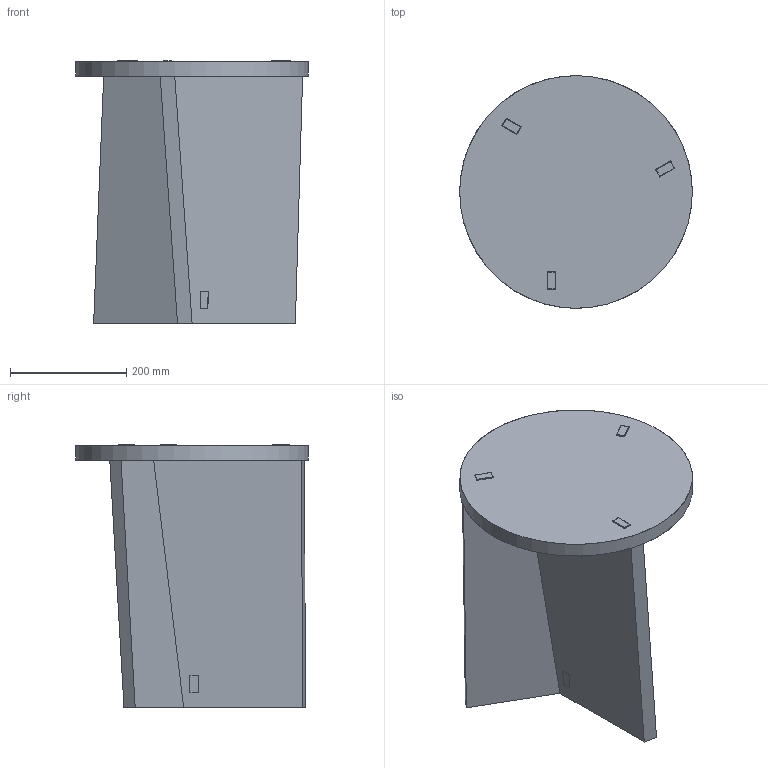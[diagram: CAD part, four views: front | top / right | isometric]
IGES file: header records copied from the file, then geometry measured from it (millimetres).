
Global section: file name: C:\Users\Timo Mikkonen\Desktop\Nikari 3d. tiedostot rfa\COFFEE TABLES\iges\Marfa Stool-table.igs; native system: Rhinoceros ( Sep  8 2025 ); preprocessor: Trout Lake IGES 012 Sep  8 2025; date: 250922.075519; units: millimetre
Bounding box: 400 x 400 x 451.5 mm (x, y, z)
Surface area: 971950.3 mm2 (no closed solid volume)
Topology: 0 solids, 0 shells, 100 faces, 635 edges, 634 vertices
Faces by surface type: bspline 100
